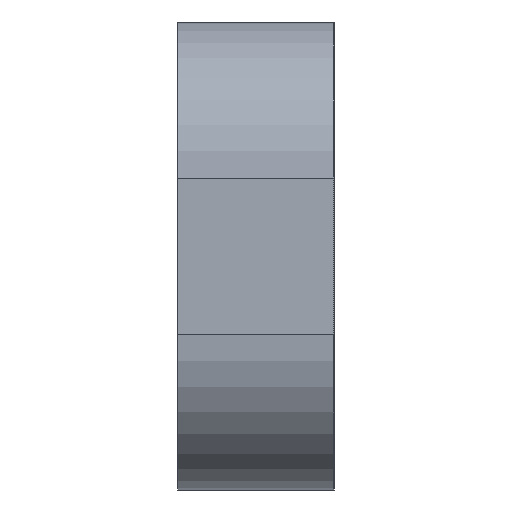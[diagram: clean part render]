
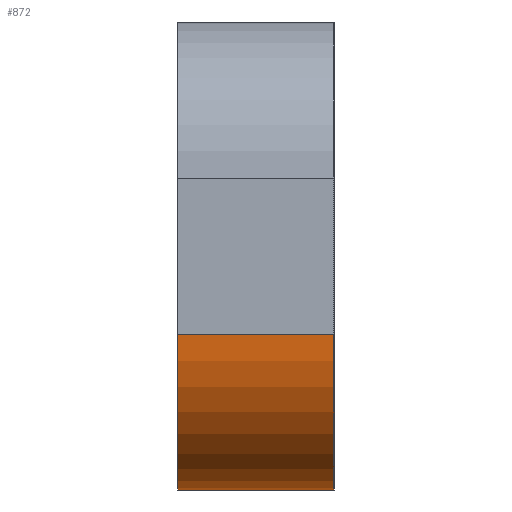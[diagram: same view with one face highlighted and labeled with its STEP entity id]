
A CAD part, left-side view. The second image highlights one B-rep face of the part: STEP entity #872.
In plain terms, the highlighted cylindrical face has radius 2 mm (diameter 4 mm), a partial arc.
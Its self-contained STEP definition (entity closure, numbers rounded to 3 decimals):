
#8 = AXIS2_PLACEMENT_3D ( 'NONE', #287, #618, #455 ) ;
#26 = CARTESIAN_POINT ( 'NONE',  ( 2., 2., -6. ) ) ;
#28 = VERTEX_POINT ( 'NONE', #311 ) ;
#98 = VERTEX_POINT ( 'NONE', #910 ) ;
#151 = CARTESIAN_POINT ( 'NONE',  ( 2., 0., -4. ) ) ;
#176 = CYLINDRICAL_SURFACE ( 'NONE', #8, 2. ) ;
#209 = EDGE_CURVE ( 'NONE', #724, #590, #799, .T. ) ;
#260 = VECTOR ( 'NONE', #272, 1000. ) ;
#272 = DIRECTION ( 'NONE',  ( 0., 1., 0. ) ) ;
#282 = VECTOR ( 'NONE', #541, 1000. ) ;
#287 = CARTESIAN_POINT ( 'NONE',  ( 2., 2., -4. ) ) ;
#311 = CARTESIAN_POINT ( 'NONE',  ( 0., 2., -4. ) ) ;
#319 = CARTESIAN_POINT ( 'NONE',  ( 2., 2., -6. ) ) ;
#369 = ORIENTED_EDGE ( 'NONE', *, *, #878, .F. ) ;
#455 = DIRECTION ( 'NONE',  ( 0., 0., -1. ) ) ;
#469 = DIRECTION ( 'NONE',  ( 0., -1., 0. ) ) ;
#541 = DIRECTION ( 'NONE',  ( 0., -1., 0. ) ) ;
#562 = CARTESIAN_POINT ( 'NONE',  ( 2., 2., -4. ) ) ;
#568 = ORIENTED_EDGE ( 'NONE', *, *, #1024, .F. ) ;
#590 = VERTEX_POINT ( 'NONE', #319 ) ;
#609 = CIRCLE ( 'NONE', #951, 2. ) ;
#618 = DIRECTION ( 'NONE',  ( 0., -1., 0. ) ) ;
#724 = VERTEX_POINT ( 'NONE', #1071 ) ;
#792 = AXIS2_PLACEMENT_3D ( 'NONE', #562, #793, #802 ) ;
#793 = DIRECTION ( 'NONE',  ( 0., 1., 0. ) ) ;
#799 = LINE ( 'NONE', #26, #260 ) ;
#802 = DIRECTION ( 'NONE',  ( 0., 0., -1. ) ) ;
#826 = ORIENTED_EDGE ( 'NONE', *, *, #209, .F. ) ;
#853 = CARTESIAN_POINT ( 'NONE',  ( 0., 2., -4. ) ) ;
#870 = CIRCLE ( 'NONE', #792, 2. ) ;
#872 = ADVANCED_FACE ( 'NONE', ( #1054 ), #176, .T. ) ;
#878 = EDGE_CURVE ( 'NONE', #28, #98, #1029, .T. ) ;
#888 = DIRECTION ( 'NONE',  ( 0., 0., -1. ) ) ;
#910 = CARTESIAN_POINT ( 'NONE',  ( 0., 0., -4. ) ) ;
#924 = EDGE_LOOP ( 'NONE', ( #979, #826, #568, #369 ) ) ;
#951 = AXIS2_PLACEMENT_3D ( 'NONE', #151, #469, #888 ) ;
#979 = ORIENTED_EDGE ( 'NONE', *, *, #1046, .F. ) ;
#1024 = EDGE_CURVE ( 'NONE', #98, #724, #609, .T. ) ;
#1029 = LINE ( 'NONE', #853, #282 ) ;
#1046 = EDGE_CURVE ( 'NONE', #590, #28, #870, .T. ) ;
#1054 = FACE_OUTER_BOUND ( 'NONE', #924, .T. ) ;
#1071 = CARTESIAN_POINT ( 'NONE',  ( 2., 0., -6. ) ) ;
